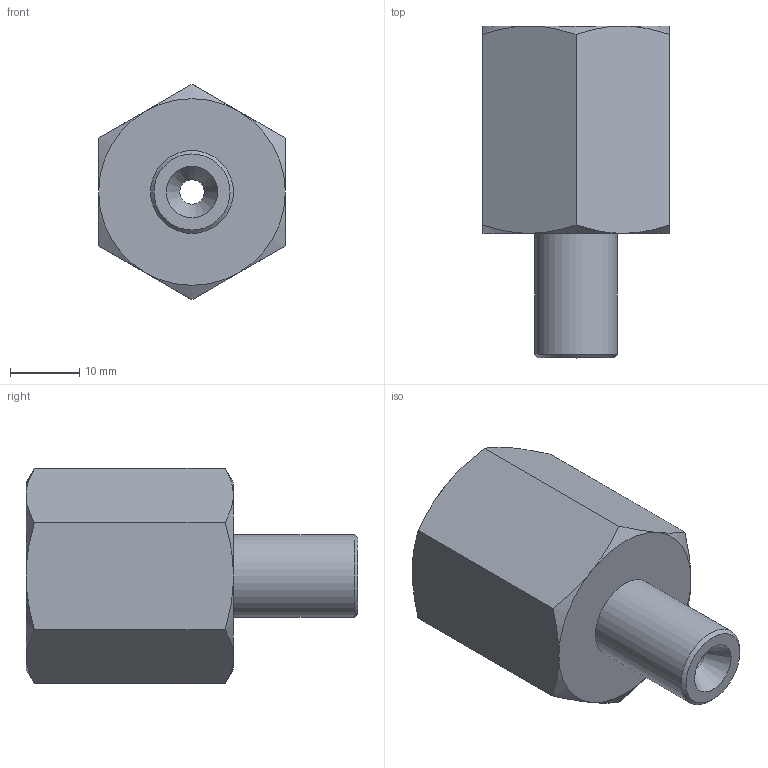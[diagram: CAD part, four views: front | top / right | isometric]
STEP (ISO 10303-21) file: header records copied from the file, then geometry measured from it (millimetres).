
FILE_DESCRIPTION(/* description */ (''),/* implementation_level */ '2;1');
FILE_NAME(/* name */ '351-SS-DIN16284-015-12mm.stp',/* time_stamp */ '2024-07-01T20:00:30+02:00',/* author */ ('roger.thijssen'),/* organization */ (''),/* preprocessor_version */ 'ST-DEVELOPER v20',/* originating_system */ 'Autodesk Inventor 2024',/* authorisation */ '');
FILE_SCHEMA (('AUTOMOTIVE_DESIGN { 1 0 10303 214 3 1 1 }'));
Length unit declared in the file: millimetre
Products named in the file (1): 351-SS-DIN16284-015-12mm
Bounding box: 27 x 48 x 31.18 mm (x, y, z)
Volume: 15464 mm3; surface area: 6064.5 mm2
Topology: 1 solids, 1 shells, 30 faces, 62 edges, 37 vertices
Faces by surface type: cone 15, plane 11, cylinder 4
Full cylindrical faces by diameter (mm): 3.5 x1, 7 x1, 12 x1, 18.631 x1
Entity records: 849 total; most frequent: CARTESIAN_POINT 178, DIRECTION 125, ORIENTED_EDGE 124, EDGE_CURVE 62, AXIS2_PLACEMENT_3D 56, VERTEX_POINT 37, EDGE_LOOP 35, STYLED_ITEM 31
